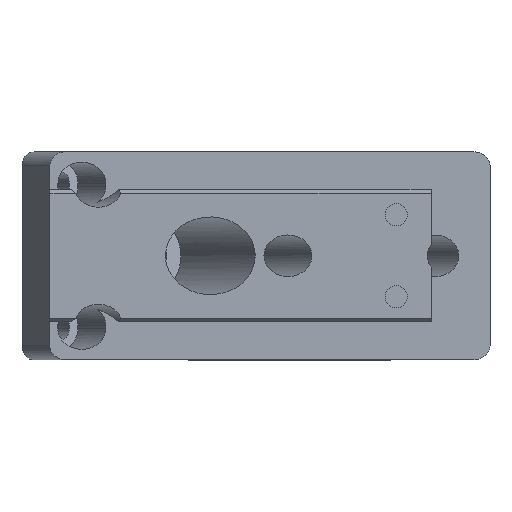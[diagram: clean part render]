
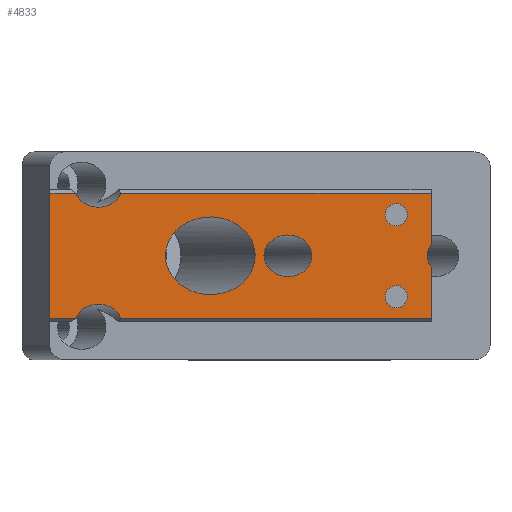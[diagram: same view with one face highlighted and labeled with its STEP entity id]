
A CAD part, top view. The second image highlights one B-rep face of the part: STEP entity #4833.
In plain terms, the highlighted planar face has unit normal (0, 0, 1).
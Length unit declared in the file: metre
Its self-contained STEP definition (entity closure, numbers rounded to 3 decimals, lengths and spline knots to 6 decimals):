
#300=ELLIPSE('',#5140,0.006466,0.0056);
#301=ELLIPSE('',#5141,0.003464,0.003);
#302=ELLIPSE('',#5144,0.003464,0.003);
#303=ELLIPSE('',#5145,0.003464,0.003);
#304=ELLIPSE('',#5146,0.003464,0.003);
#387=CIRCLE('',#5142,0.0016);
#388=CIRCLE('',#5143,0.0016);
#482=ORIENTED_EDGE('',*,*,#1966,.T.);
#483=ORIENTED_EDGE('',*,*,#1967,.T.);
#484=ORIENTED_EDGE('',*,*,#1968,.T.);
#485=ORIENTED_EDGE('',*,*,#1969,.T.);
#486=ORIENTED_EDGE('',*,*,#1970,.F.);
#487=ORIENTED_EDGE('',*,*,#1971,.T.);
#488=ORIENTED_EDGE('',*,*,#1972,.T.);
#489=ORIENTED_EDGE('',*,*,#1973,.T.);
#490=ORIENTED_EDGE('',*,*,#1974,.F.);
#491=ORIENTED_EDGE('',*,*,#1975,.T.);
#492=ORIENTED_EDGE('',*,*,#1976,.F.);
#493=ORIENTED_EDGE('',*,*,#1977,.T.);
#494=ORIENTED_EDGE('',*,*,#1978,.F.);
#495=ORIENTED_EDGE('',*,*,#1979,.T.);
#1966=EDGE_CURVE('',#2708,#2708,#300,.T.);
#1967=EDGE_CURVE('',#2709,#2709,#301,.T.);
#1968=EDGE_CURVE('',#2710,#2710,#387,.T.);
#1969=EDGE_CURVE('',#2711,#2711,#388,.T.);
#1970=EDGE_CURVE('',#2712,#2713,#302,.F.);
#1971=EDGE_CURVE('',#2712,#2714,#3188,.T.);
#1972=EDGE_CURVE('',#2714,#2715,#3189,.T.);
#1973=EDGE_CURVE('',#2715,#2716,#3190,.T.);
#1974=EDGE_CURVE('',#2717,#2716,#303,.F.);
#1975=EDGE_CURVE('',#2717,#2718,#3191,.T.);
#1976=EDGE_CURVE('',#2719,#2718,#3192,.T.);
#1977=EDGE_CURVE('',#2719,#2720,#304,.T.);
#1978=EDGE_CURVE('',#2721,#2720,#3193,.T.);
#1979=EDGE_CURVE('',#2721,#2713,#3194,.T.);
#2708=VERTEX_POINT('',#6489);
#2709=VERTEX_POINT('',#6491);
#2710=VERTEX_POINT('',#6493);
#2711=VERTEX_POINT('',#6495);
#2712=VERTEX_POINT('',#6497);
#2713=VERTEX_POINT('',#6498);
#2714=VERTEX_POINT('',#6500);
#2715=VERTEX_POINT('',#6502);
#2716=VERTEX_POINT('',#6504);
#2717=VERTEX_POINT('',#6506);
#2718=VERTEX_POINT('',#6508);
#2719=VERTEX_POINT('',#6510);
#2720=VERTEX_POINT('',#6512);
#2721=VERTEX_POINT('',#6514);
#3188=LINE('',#6499,#3639);
#3189=LINE('',#6501,#3640);
#3190=LINE('',#6503,#3641);
#3191=LINE('',#6507,#3642);
#3192=LINE('',#6509,#3643);
#3193=LINE('',#6513,#3644);
#3194=LINE('',#6515,#3645);
#3639=VECTOR('',#5474,1.);
#3640=VECTOR('',#5475,1.);
#3641=VECTOR('',#5476,1.);
#3642=VECTOR('',#5479,1.);
#3643=VECTOR('',#5480,1.);
#3644=VECTOR('',#5483,1.);
#3645=VECTOR('',#5484,1.);
#4077=EDGE_LOOP('',(#482));
#4078=EDGE_LOOP('',(#483));
#4079=EDGE_LOOP('',(#484));
#4080=EDGE_LOOP('',(#485));
#4081=EDGE_LOOP('',(#486,#487,#488,#489,#490,#491,#492,#493,#494,#495));
#4390=FACE_BOUND('',#4077,.T.);
#4391=FACE_BOUND('',#4078,.T.);
#4392=FACE_BOUND('',#4079,.T.);
#4393=FACE_BOUND('',#4080,.T.);
#4394=FACE_BOUND('',#4081,.T.);
#4695=PLANE('',#5139);
#4833=ADVANCED_FACE('',(#4390,#4391,#4392,#4393,#4394),#4695,.F.);
#5139=AXIS2_PLACEMENT_3D('',#6487,#5462,#5463);
#5140=AXIS2_PLACEMENT_3D('',#6488,#5464,#5465);
#5141=AXIS2_PLACEMENT_3D('',#6490,#5466,#5467);
#5142=AXIS2_PLACEMENT_3D('',#6492,#5468,#5469);
#5143=AXIS2_PLACEMENT_3D('',#6494,#5470,#5471);
#5144=AXIS2_PLACEMENT_3D('',#6496,#5472,#5473);
#5145=AXIS2_PLACEMENT_3D('',#6505,#5477,#5478);
#5146=AXIS2_PLACEMENT_3D('',#6511,#5481,#5482);
#5462=DIRECTION('',(0.,0.,-1.));
#5463=DIRECTION('',(-1.,0.,0.));
#5464=DIRECTION('',(0.,0.,-1.));
#5465=DIRECTION('',(-1.,0.,0.));
#5466=DIRECTION('',(0.,0.,-1.));
#5467=DIRECTION('',(-1.,0.,0.));
#5468=DIRECTION('',(0.,0.,-1.));
#5469=DIRECTION('',(-1.,0.,0.));
#5470=DIRECTION('',(0.,0.,-1.));
#5471=DIRECTION('',(-1.,0.,0.));
#5472=DIRECTION('',(0.,0.,-1.));
#5473=DIRECTION('',(-1.,0.,0.));
#5474=DIRECTION('',(-1.,0.,0.));
#5475=DIRECTION('',(0.,-1.,0.));
#5476=DIRECTION('',(1.,0.,0.));
#5477=DIRECTION('',(0.,0.,-1.));
#5478=DIRECTION('',(-1.,0.,0.));
#5479=DIRECTION('',(1.,0.,0.));
#5480=DIRECTION('',(0.,-1.,0.));
#5481=DIRECTION('',(0.,0.,-1.));
#5482=DIRECTION('',(-1.,0.,0.));
#5483=DIRECTION('',(0.,-1.,0.));
#5484=DIRECTION('',(-1.,0.,0.));
#6487=CARTESIAN_POINT('',(0.055,0.,0.0041));
#6488=CARTESIAN_POINT('',(0.023152,0.,0.0041));
#6489=CARTESIAN_POINT('',(0.016685,0.,0.0041));
#6490=CARTESIAN_POINT('',(0.034352,0.,0.0041));
#6491=CARTESIAN_POINT('',(0.030888,0.,0.0041));
#6492=CARTESIAN_POINT('',(0.05,0.0059,0.0041));
#6493=CARTESIAN_POINT('',(0.0484,0.0059,0.0041));
#6494=CARTESIAN_POINT('',(0.05,-0.0059,0.0041));
#6495=CARTESIAN_POINT('',(0.0484,-0.0059,0.0041));
#6496=CARTESIAN_POINT('',(0.006986,0.01,0.0041));
#6497=CARTESIAN_POINT('',(0.003718,0.009004,0.0041));
#6498=CARTESIAN_POINT('',(0.010254,0.009004,0.0041));
#6499=CARTESIAN_POINT('',(0.,0.009004,0.0041));
#6500=CARTESIAN_POINT('',(0.,0.009004,0.0041));
#6501=CARTESIAN_POINT('',(0.,0.,0.0041));
#6502=CARTESIAN_POINT('',(0.,-0.009004,0.0041));
#6503=CARTESIAN_POINT('',(0.055,-0.009004,0.0041));
#6504=CARTESIAN_POINT('',(0.003718,-0.009004,0.0041));
#6505=CARTESIAN_POINT('',(0.006986,-0.01,0.0041));
#6506=CARTESIAN_POINT('',(0.010254,-0.009004,0.0041));
#6507=CARTESIAN_POINT('',(0.055,-0.009004,0.0041));
#6508=CARTESIAN_POINT('',(0.055,-0.009004,0.0041));
#6509=CARTESIAN_POINT('',(0.055,0.,0.0041));
#6510=CARTESIAN_POINT('',(0.055,-0.00163,0.0041));
#6511=CARTESIAN_POINT('',(0.057908,0.,0.0041));
#6512=CARTESIAN_POINT('',(0.055,0.00163,0.0041));
#6513=CARTESIAN_POINT('',(0.055,0.,0.0041));
#6514=CARTESIAN_POINT('',(0.055,0.009004,0.0041));
#6515=CARTESIAN_POINT('',(0.,0.009004,0.0041));
